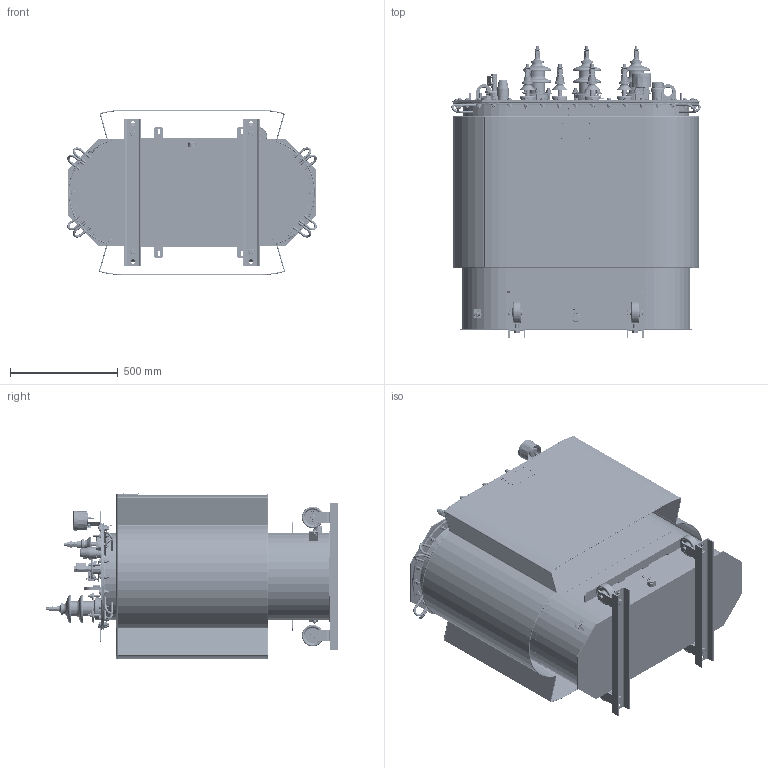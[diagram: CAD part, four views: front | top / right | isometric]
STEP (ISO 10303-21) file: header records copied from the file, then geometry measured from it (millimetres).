
FILE_DESCRIPTION(/* description */ (''),/* implementation_level */ '2;1');
FILE_NAME(/* name */ 'D:\SEARCHWORK\Готовые\Готовые ТМГ\ТМГ33\ТМГ33-250-10-УХЛ1-Х3К2.stp',/* time_stamp */ '2024-01-23T14:55:07+03:00',/* author */ ('55505'),/* organization */ (''),/* preprocessor_version */ 'ST-DEVELOPER v18.1',/* originating_system */ 'Autodesk Inventor 2021',/* authorisation */ '');
FILE_SCHEMA (('AUTOMOTIVE_DESIGN { 1 0 10303 214 3 1 1 }'));
Products named in the file (1): ВИЕЛ.672233.080
Bounding box: 1160.2 x 1359.9 x 773 mm (x, y, z)
Volume: 20965213 mm3; surface area: 13158386.4 mm2
Topology: 57 solids, 129 shells, 11752 faces, 28914 edges, 18242 vertices
Faces by surface type: plane 5733, cylinder 2918, bspline 1724, cone 731, torus 524, sphere 122
Full cylindrical faces by diameter (mm): 1.5 x4, 1.6 x5, 2 x4, 2.7 x1, 3 x21, 3.1 x4, 3.15 x3, 3.2 x6, 3.4 x4, 3.5 x1, 3.8 x4, 3.96 x18, 4 x48, 4.1 x30, 4.2 x3, 4.3 x2, 4.5 x21, 4.8 x15, 4.917 x3, 5 x32, 5.3 x5, 5.5 x2, 5.94 x12, 6 x49, 6.1 x6, 6.2 x5, 6.5 x7, 7 x12, 7.1 x2, 7.5 x1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
Entity records: 430469 total; most frequent: CARTESIAN_POINT 152367, ORIENTED_EDGE 57336, DIRECTION 51863, EDGE_CURVE 28688, AXIS2_PLACEMENT_3D 19096, VERTEX_POINT 18285, LINE 13671, VECTOR 13671
